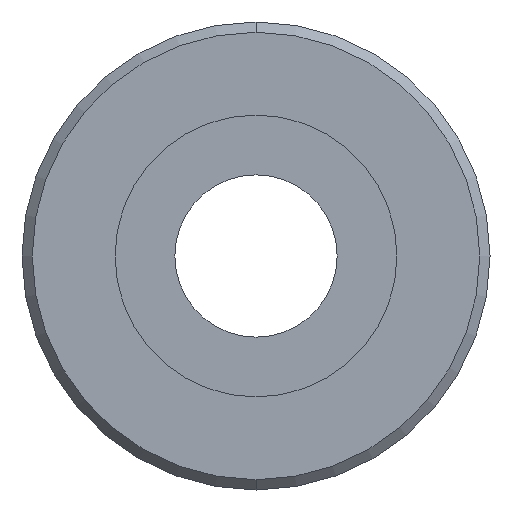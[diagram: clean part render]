
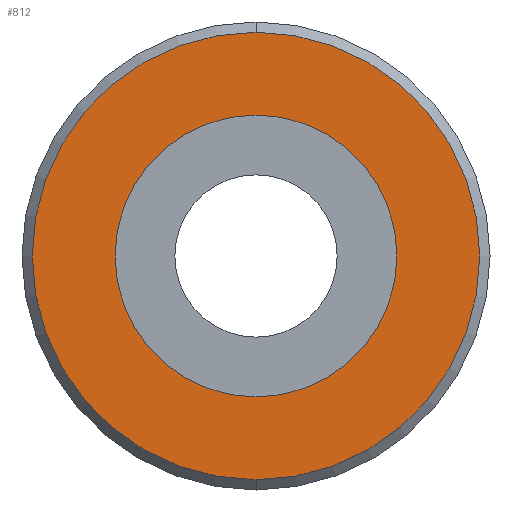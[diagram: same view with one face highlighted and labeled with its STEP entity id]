
A CAD part, front view. The second image highlights one B-rep face of the part: STEP entity #812.
In plain terms, the highlighted planar face has unit normal (0, -1, 0).
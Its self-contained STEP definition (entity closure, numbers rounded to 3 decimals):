
#54 = DIRECTION ( 'NONE',  ( 0., -1., 0. ) ) ;
#61 = EDGE_LOOP ( 'NONE', ( #1286, #398 ) ) ;
#185 = EDGE_LOOP ( 'NONE', ( #451, #477 ) ) ;
#222 = CIRCLE ( 'NONE', #1341, 4.125 ) ;
#263 = CARTESIAN_POINT ( 'NONE',  ( 0., -2.4, 0. ) ) ;
#274 = VERTEX_POINT ( 'NONE', #348 ) ;
#299 = CARTESIAN_POINT ( 'NONE',  ( 6.85, -2.4, 0. ) ) ;
#302 = VERTEX_POINT ( 'NONE', #592 ) ;
#328 = DIRECTION ( 'NONE',  ( 0., 0., -1. ) ) ;
#348 = CARTESIAN_POINT ( 'NONE',  ( 0., -2.4, -4.125 ) ) ;
#356 = VERTEX_POINT ( 'NONE', #841 ) ;
#398 = ORIENTED_EDGE ( 'NONE', *, *, #710, .F. ) ;
#451 = ORIENTED_EDGE ( 'NONE', *, *, #1448, .T. ) ;
#463 = DIRECTION ( 'NONE',  ( 0., -1., 0. ) ) ;
#476 = AXIS2_PLACEMENT_3D ( 'NONE', #299, #874, #518 ) ;
#477 = ORIENTED_EDGE ( 'NONE', *, *, #1106, .T. ) ;
#500 = CARTESIAN_POINT ( 'NONE',  ( 0., -2.4, 0. ) ) ;
#518 = DIRECTION ( 'NONE',  ( 0., 0., -1. ) ) ;
#524 = FACE_BOUND ( 'NONE', #61, .T. ) ;
#585 = CIRCLE ( 'NONE', #1116, 6.55 ) ;
#592 = CARTESIAN_POINT ( 'NONE',  ( 0., -2.4, 4.125 ) ) ;
#599 = CARTESIAN_POINT ( 'NONE',  ( 0., -2.4, 6.55 ) ) ;
#624 = CARTESIAN_POINT ( 'NONE',  ( 0., -2.4, 0. ) ) ;
#652 = DIRECTION ( 'NONE',  ( 0., 0., -1. ) ) ;
#686 = AXIS2_PLACEMENT_3D ( 'NONE', #263, #737, #731 ) ;
#700 = EDGE_CURVE ( 'NONE', #274, #302, #222, .T. ) ;
#710 = EDGE_CURVE ( 'NONE', #302, #274, #844, .T. ) ;
#731 = DIRECTION ( 'NONE',  ( 0., 0., -1. ) ) ;
#737 = DIRECTION ( 'NONE',  ( 0., -1., 0. ) ) ;
#812 = ADVANCED_FACE ( 'NONE', ( #867, #524 ), #1338, .T. ) ;
#820 = AXIS2_PLACEMENT_3D ( 'NONE', #624, #54, #652 ) ;
#841 = CARTESIAN_POINT ( 'NONE',  ( 0., -2.4, -6.55 ) ) ;
#844 = CIRCLE ( 'NONE', #686, 4.125 ) ;
#867 = FACE_OUTER_BOUND ( 'NONE', #185, .T. ) ;
#874 = DIRECTION ( 'NONE',  ( 0., -1., 0. ) ) ;
#1047 = DIRECTION ( 'NONE',  ( 0., 0., -1. ) ) ;
#1106 = EDGE_CURVE ( 'NONE', #356, #1303, #1456, .T. ) ;
#1116 = AXIS2_PLACEMENT_3D ( 'NONE', #1517, #1292, #328 ) ;
#1286 = ORIENTED_EDGE ( 'NONE', *, *, #700, .F. ) ;
#1292 = DIRECTION ( 'NONE',  ( 0., -1., 0. ) ) ;
#1303 = VERTEX_POINT ( 'NONE', #599 ) ;
#1338 = PLANE ( 'NONE',  #476 ) ;
#1341 = AXIS2_PLACEMENT_3D ( 'NONE', #500, #463, #1047 ) ;
#1448 = EDGE_CURVE ( 'NONE', #1303, #356, #585, .T. ) ;
#1456 = CIRCLE ( 'NONE', #820, 6.55 ) ;
#1517 = CARTESIAN_POINT ( 'NONE',  ( 0., -2.4, 0. ) ) ;
